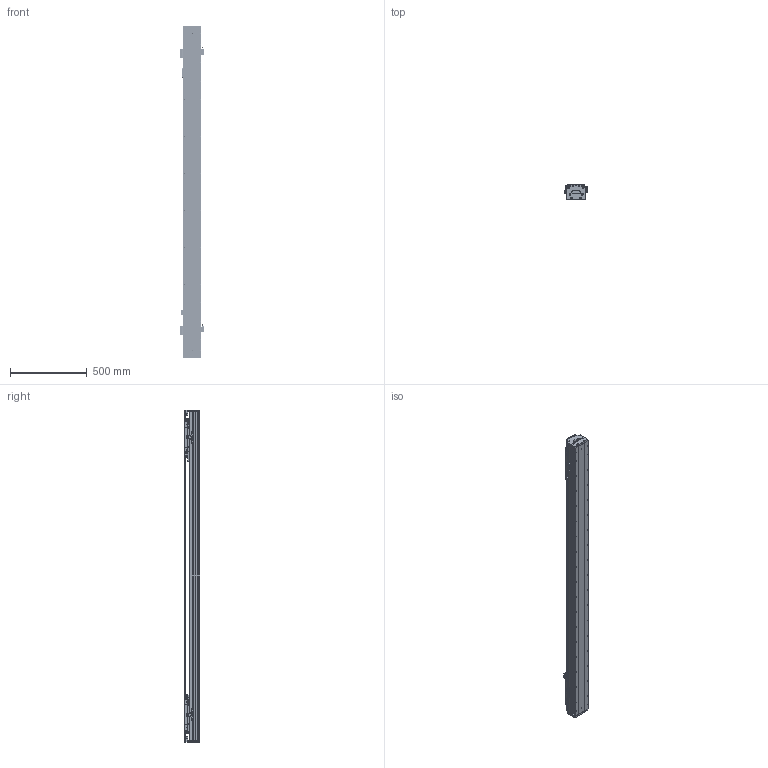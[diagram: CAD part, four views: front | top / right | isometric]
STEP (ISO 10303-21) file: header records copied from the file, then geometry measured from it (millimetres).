
FILE_DESCRIPTION (( 'STEP AP203' ), '1' );
FILE_NAME ('DKW119-2×C3-W060(T1520-L005-0.2).STEP', '2021-09-18T00:54:24', ( '微软用户' ), ( '微软中国' ), 'SwSTEP 2.0', 'SolidWorks 2018', '' );
FILE_SCHEMA (( 'CONFIG_CONTROL_DESIGN' ));
Length unit declared in the file: millimetre
Products named in the file (26): 12160-0000-003-00 DKW120詩湍嶺輸; DKW119-RU-DTJ-00 RU2黍杅芛盓殤; RUS嫖掑喜; 12160-0000-004-00  DKW120詩湍揤輸; 电机出线 ^DKW119-2×C3-W060(T1520-L005-0.2); Ru2; DKW119 单轴模组-拉钢带组件; CKMA01-W060-TRLxxx; CKM03-W060_00; pm-y65; DKW-HXJ-JY-00 遣喳砎蝶; DKW-DG-XJ-Z-00 笢潔滅袉砎蝶; 10980-0001-003-00 嫖萇羲壽嘐隅釱; 11062-0001-004-00 DKW119傷啣; DKW-GYP-ZJ-00 笢潔嫖萇覜茼え; 嫖萇羲壽蚾饜极; 06652-0001-004-00 DKW120嶺輸菜輸; DKW-KGZ-ZJ-00 中间光电开关支架; 12018-0001-002-00 詩湍; EE_SX674A; 12018-0001-001-00 菁釱; 嫖萇羲壽蚾饜极A; 砎蝶猾沭; DKW119-2×C3-W060(T1520-L005-0.2); MSB15-DG-U; DKW-SG-GYP-H-00 嫖萇覜茼え
Assembly tree (45 placements, depth 3):
  DKW119-2×C3-W060(T1520-L005-0.2)
    12018-0001-001-00 菁釱
    MSB15-DG-U  x2
    DKW119-RU-DTJ-00 RU2黍杅芛盓殤  x2
    电机出线 ^DKW119-2×C3-W060(T1520-L005-0.2)  x2
    CKMA01-W060-TRLxxx
    DKW119 单轴模组-拉钢带组件
      DKW-HXJ-JY-00 遣喳砎蝶  x4
      11062-0001-004-00 DKW119傷啣  x2
      06652-0001-004-00 DKW120嶺輸菜輸  x4
      12018-0001-002-00 詩湍
      砎蝶猾沭  x2
      12160-0000-003-00 DKW120詩湍嶺輸  x2
      12160-0000-004-00  DKW120詩湍揤輸  x2
    嫖萇羲壽蚾饜极
      pm-y65  x2
      10980-0001-003-00 嫖萇羲壽嘐隅釱
    嫖萇羲壽蚾饜极A
      pm-y65  x2
      10980-0001-003-00 嫖萇羲壽嘐隅釱
    DKW-SG-GYP-H-00 嫖萇覜茼え  x2
    RUS嫖掑喜
    Ru2  x2
    CKM03-W060_00  x2
    DKW-DG-XJ-Z-00 笢潔滅袉砎蝶
    DKW-GYP-ZJ-00 笢潔嫖萇覜茼え
    DKW-KGZ-ZJ-00 中间光电开关支架
    EE_SX674A
Bounding box: 154.3 x 99 x 2156 mm (x, y, z)
Volume: 10469075.8 mm3; surface area: 3263923.8 mm2
Topology: 62 solids, 160 shells, 6633 faces, 17630 edges, 11290 vertices
Faces by surface type: plane 3532, cylinder 2057, cone 550, bspline 494
Entity records: 136112 total; most frequent: CARTESIAN_POINT 44531, ORIENTED_EDGE 18363, DIRECTION 17760, EDGE_CURVE 9222, VERTEX_POINT 6046, AXIS2_PLACEMENT_3D 6024, VECTOR 5712, LINE 5712
